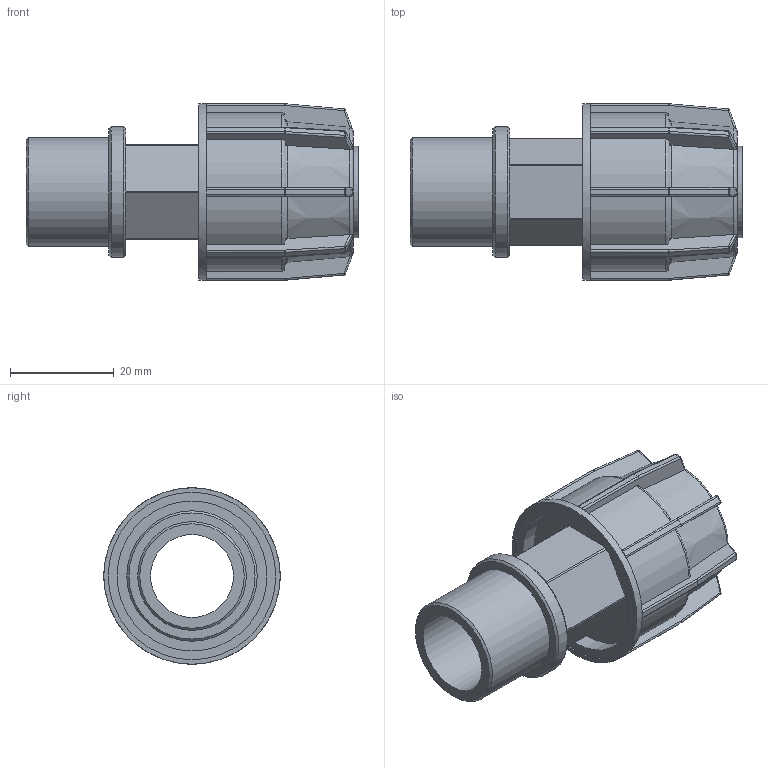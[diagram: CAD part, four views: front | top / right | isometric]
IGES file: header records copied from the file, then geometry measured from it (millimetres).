
Global section: file name: 040207016005.ipt; native system: Autodesk Inventor 2015; preprocessor: unknown; author: KIM; date: 20180409.130623; units: millimetre
Bounding box: 64 x 34 x 34 mm (x, y, z)
Volume: 17448.1 mm3; surface area: 11445.4 mm2
Topology: 1 solids, 1 shells, 281 faces, 681 edges, 396 vertices
Faces by surface type: plane 141, cylinder 76, sphere 32, revolution 21, cone 11
Full cylindrical faces by diameter (mm): 17.6 x1, 20.955 x1, 25.146 x1, 34 x1
